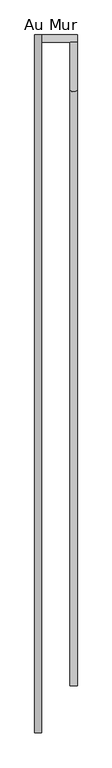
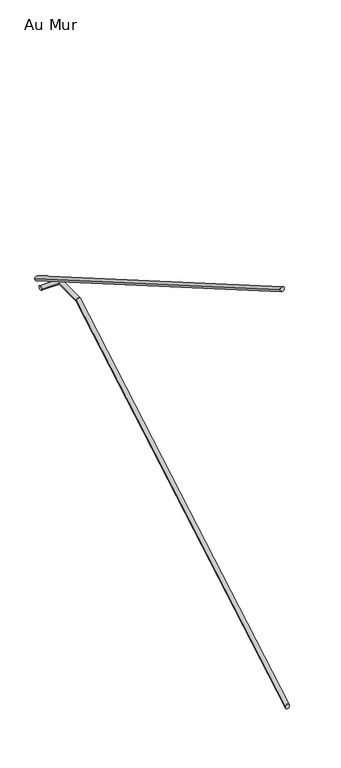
"""IFC4 building model written with IfcOpenShell, lengths in millimetres: railing geometry, Au Mur."""

from ifc_helpers import new_model, si_unit, frame, origin, place, context, project, spatial, circle_curve, ellipse_curve, source, transform, mapped, element, save
from ifc_brep_helpers import plane_surface, cylinder_surface, advanced_brep


def au_mur_a17d0cca(model_context):
    return source(origin(), model_context, "Body", "AdvancedBrep", [
        advanced_brep(
        [(-17203.6938634, 12938.7206382, 5166.8075695), (-17233.6938634, 12938.7206382, 5166.8075695), (-17203.6938634, 15462.7530804, 6629.590519), (-17233.6938634, 15462.7530804, 6629.590519), (-17203.6938634, 15669.2497737, 6629.590519), (-17233.6938634, 15669.2497737, 6629.590519)],
        [
            (0, 1, ellipse_curve(frame((-17218.6938634, 12938.7206382, 5166.8075695), z_axis=(0.0, -1.0, 0.0), x_axis=(0.0, 0.0, -1.0)), 17.3369699, 15.0)),
            (1, 0, ellipse_curve(frame((-17218.6938634, 12938.7206382, 5166.8075695), z_axis=(0.0, -1.0, 0.0), x_axis=(0.0, 0.0, -1.0)), 17.3369699, 15.0)),
            (0, 2),
            (2, 3, ellipse_curve(frame((-17218.6938634, 15462.7530804, 6629.590519), z_axis=(0.0, -0.9657129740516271, -0.2596121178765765), x_axis=(0.0, 0.2596121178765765, -0.965712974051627)), 15.5325655, 15.0)),
            (3, 1),
            (3, 2, ellipse_curve(frame((-17218.6938634, 15462.7530804, 6629.590519), z_axis=(0.0, -0.9657129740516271, -0.2596121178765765), x_axis=(0.0, 0.2596121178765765, -0.965712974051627)), 15.5325655, 15.0)),
            (4, 5, circle_curve(frame((-17218.6938634, 15669.2497737, 6629.590519), z_axis=(0.0, 1.0, 0.0), x_axis=(-1.0, 0.0, 0.0)), 15.0)),
            (5, 4, circle_curve(frame((-17218.6938634, 15669.2497737, 6629.590519), z_axis=(0.0, 1.0, 0.0), x_axis=(-1.0, 0.0, 0.0)), 15.0)),
            (2, 4),
            (5, 3),
        ],
        [
            plane_surface(frame((-17218.6938634, 12938.7206382, 5184.1445394), z_axis=(0.0, -1.0, 0.0), x_axis=(0.0, 0.0, 1.0))),
            cylinder_surface(frame((-17218.6938634, 12946.2419619, 5171.1664929), z_axis=(0.0, -0.8652030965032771, -0.5014215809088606), x_axis=(-1.0, 0.0, 0.0)), 15.0),
            plane_surface(frame((-17218.6938634, 15669.2497737, 6644.590519), z_axis=(0.0, 1.0, 0.0), x_axis=(0.0, 0.0, 1.0))),
            cylinder_surface(frame((-17218.6938634, 15458.7206382, 6629.590519), z_axis=(0.0, -1.0, 0.0), x_axis=(-1.0, 0.0, 0.0)), 15.0),
        ],
        [
            (0, [[1, 2]]),
            (1, [[-1, 3, 4, 5]]),
            (1, [[-2, -5, 6, -3]]),
            (2, [[7, 8]]),
            (3, [[-4, 9, -8, 10]]),
            (3, [[-6, -10, -7, -9]]),
        ],
    ),
        advanced_brep(
        [(-17203.6938634, 15699.2497737, 6629.590519), (-17203.6938634, 15669.2497737, 6629.590519), (-17354.4938634, 15699.2497737, 6629.590519), (-17354.4938634, 15669.2497737, 6629.590519)],
        [
            (0, 1, circle_curve(frame((-17203.6938634, 15684.2497737, 6629.590519), z_axis=(1.0, 0.0, 0.0), x_axis=(0.0, -1.0, 0.0)), 15.0)),
            (1, 0, circle_curve(frame((-17203.6938634, 15684.2497737, 6629.590519), z_axis=(1.0, 0.0, 0.0), x_axis=(0.0, -1.0, 0.0)), 15.0)),
            (2, 3, circle_curve(frame((-17354.4938634, 15684.2497737, 6629.590519), z_axis=(-1.0, 0.0, 0.0), x_axis=(0.0, -1.0, 0.0)), 15.0)),
            (3, 2, circle_curve(frame((-17354.4938634, 15684.2497737, 6629.590519), z_axis=(-1.0, 0.0, 0.0), x_axis=(0.0, -1.0, 0.0)), 15.0)),
            (0, 2),
            (3, 1),
        ],
        [
            plane_surface(frame((-17203.6938634, 15684.2497737, 6644.590519), z_axis=(1.0, 0.0, 0.0), x_axis=(0.0, -1.0, 0.0))),
            plane_surface(frame((-17354.4938634, 15684.2497737, 6644.590519), z_axis=(-1.0, 0.0, 0.0), x_axis=(0.0, -1.0, 0.0))),
            cylinder_surface(frame((-17203.6938634, 15684.2497737, 6629.590519), z_axis=(1.0, 0.0, 0.0), x_axis=(0.0, -1.0, 0.0)), 15.0),
        ],
        [
            (0, [[1, 2]]),
            (1, [[3, 4]]),
            (2, [[-1, 5, -4, 6]]),
            (2, [[-2, -6, -3, -5]]),
        ],
    ),
        advanced_brep(
        [(-17384.4938634, 15699.2497737, 6696.4919395), (-17354.4938634, 15699.2497737, 6696.4919395), (-17384.4938634, 12738.7206382, 8412.2430799), (-17354.4938634, 12738.7206382, 8412.2430799)],
        [
            (0, 1, ellipse_curve(frame((-17369.4938634, 15699.2497737, 6696.4919395), z_axis=(0.0, 1.0, 0.0), x_axis=(0.0, 0.0, -1.0)), 17.3369699, 15.0)),
            (1, 0, ellipse_curve(frame((-17369.4938634, 15699.2497737, 6696.4919395), z_axis=(0.0, 1.0, 0.0), x_axis=(0.0, 0.0, -1.0)), 17.3369699, 15.0)),
            (2, 3, ellipse_curve(frame((-17369.4938634, 12738.7206382, 8412.2430799), z_axis=(0.0, -1.0, 0.0), x_axis=(0.0, 0.0, -1.0)), 17.3369699, 15.0)),
            (3, 2, ellipse_curve(frame((-17369.4938634, 12738.7206382, 8412.2430799), z_axis=(0.0, -1.0, 0.0), x_axis=(0.0, 0.0, -1.0)), 17.3369699, 15.0)),
            (0, 2),
            (3, 1),
        ],
        [
            plane_surface(frame((-17369.4938634, 15699.2497737, 6713.8289094), z_axis=(0.0, 1.0, 0.0), x_axis=(0.0, 0.0, -1.0))),
            plane_surface(frame((-17369.4938634, 12738.7206382, 8429.5800498), z_axis=(0.0, -1.0, 0.0), x_axis=(0.0, 0.0, -1.0))),
            cylinder_surface(frame((-17369.4938634, 15691.72845, 6700.850863), z_axis=(0.0, 0.8652030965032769, -0.501421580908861), x_axis=(1.0, 0.0, 0.0)), 15.0),
        ],
        [
            (0, [[1, 2]]),
            (1, [[3, 4]]),
            (2, [[-1, 5, -4, 6]]),
            (2, [[-2, -6, -3, -5]]),
        ],
    ),
    ])


if __name__ == "__main__":
    model = new_model("IFC4")
    model_context = context("Model", 3, world=origin())
    ifc_project = project(units=[si_unit("LENGTHUNIT", "METRE", prefix="MILLI")], contexts=[model_context])
    site = spatial("IfcSite", under=ifc_project)
    building = spatial("IfcBuilding", under=site)
    placement = place(None, origin())
    au_mur_shape = au_mur_a17d0cca(model_context)
    element("IfcRailing", 1, ObjectType="Au Mur", at=placement, inside=building, context=model_context, shape_type="MappedRepresentation", body=[
        mapped(au_mur_shape, transform((0.0, 0.0, 0.0), x_axis=(1.0, 0.0, 0.0), y_axis=(0.0, 1.0, 0.0), z_axis=(0.0, 0.0, 1.0))),
    ])
    save(model, "model.ifc")
